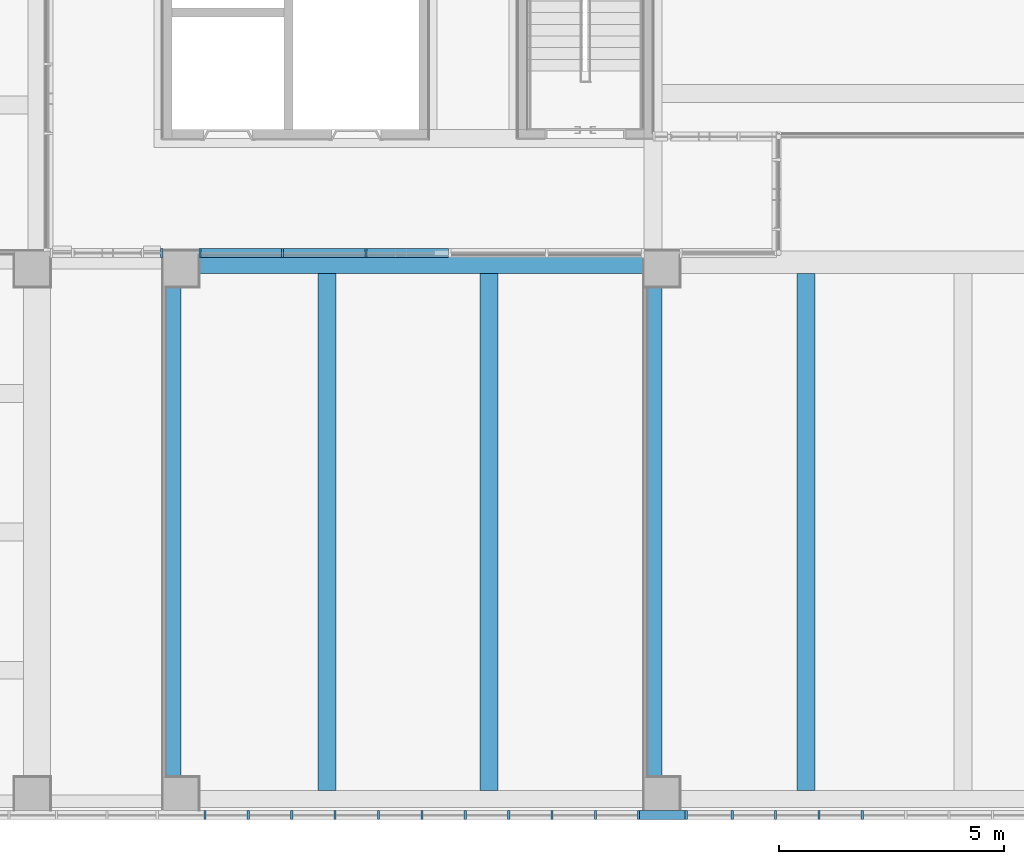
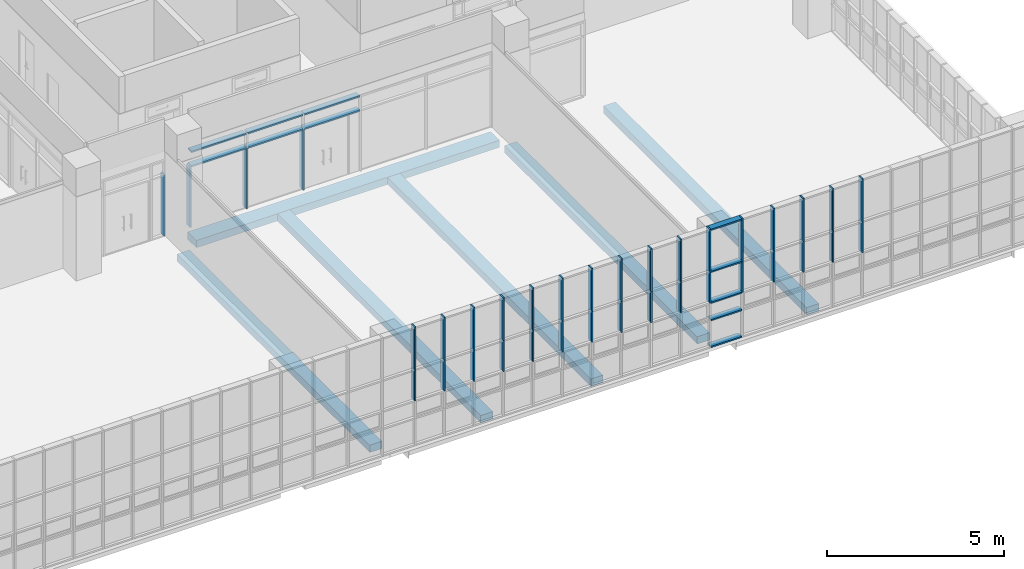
# One storey, part 4 of 76: 47 members, 6 beams, 3 elements without a shape of their own.
"""IFC2X3 building model written with IfcOpenShell, lengths in millimetres."""

from ifc_helpers import new_model, entity, si_unit, converted_unit, derived_unit, direction, frame, frame_2d, origin, origin_2d_with_axis, place, context, subcontext, project, spatial, rectangle, extrude, source, transform, mapped, material, type_object, type_shapes, element, aggregate, save


model = new_model("IFC2X3")

# Units and contexts
model_context = context("Model", 3, precision=0.01, world=origin(), true_north=direction((6.123031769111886e-17, 1.0)))
body_context = subcontext(model_context, "Body", "Model", "MODEL_VIEW")
ifc_project = project(units=[si_unit("LENGTHUNIT", "METRE", prefix="MILLI"), si_unit("AREAUNIT", "SQUARE_METRE"), si_unit("VOLUMEUNIT", "CUBIC_METRE"), converted_unit("PLANEANGLEUNIT", "DEGREE", entity("IfcRatioMeasure", 0.017453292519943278), si_unit("PLANEANGLEUNIT", "RADIAN"), dimensions=[0, 0, 0, 0, 0, 0, 0]), si_unit("MASSUNIT", "GRAM", prefix="KILO"), derived_unit("MASSDENSITYUNIT", [(si_unit("MASSUNIT", "GRAM", prefix="KILO"), 1), (si_unit("LENGTHUNIT", "METRE"), -3)]), derived_unit("MOMENTOFINERTIAUNIT", [(si_unit("LENGTHUNIT", "METRE"), 4)]), si_unit("TIMEUNIT", "SECOND"), si_unit("FREQUENCYUNIT", "HERTZ"), si_unit("THERMODYNAMICTEMPERATUREUNIT", "DEGREE_CELSIUS"), derived_unit("THERMALTRANSMITTANCEUNIT", [(si_unit("MASSUNIT", "GRAM", prefix="KILO"), 1), (si_unit("THERMODYNAMICTEMPERATUREUNIT", "KELVIN"), -1), (si_unit("TIMEUNIT", "SECOND"), -3)]), derived_unit("VOLUMETRICFLOWRATEUNIT", [(si_unit("LENGTHUNIT", "METRE"), 3), (si_unit("TIMEUNIT", "SECOND"), -1)]), derived_unit("MASSFLOWRATEUNIT", [(si_unit("MASSUNIT", "GRAM", prefix="KILO"), 1), (si_unit("TIMEUNIT", "SECOND"), -1)]), derived_unit("ROTATIONALFREQUENCYUNIT", [(si_unit("TIMEUNIT", "SECOND"), -1)]), si_unit("ELECTRICCURRENTUNIT", "AMPERE"), si_unit("ELECTRICVOLTAGEUNIT", "VOLT"), si_unit("POWERUNIT", "WATT"), si_unit("FORCEUNIT", "NEWTON", prefix="KILO"), si_unit("ILLUMINANCEUNIT", "LUX"), si_unit("LUMINOUSFLUXUNIT", "LUMEN"), si_unit("LUMINOUSINTENSITYUNIT", "CANDELA"), derived_unit("USERDEFINED", [(si_unit("MASSUNIT", "GRAM", prefix="KILO"), -1), (si_unit("LENGTHUNIT", "METRE"), -2), (si_unit("TIMEUNIT", "SECOND"), 3), (si_unit("LUMINOUSFLUXUNIT", "LUMEN"), 1)]), derived_unit("SOUNDPOWERUNIT", [(si_unit("MASSUNIT", "GRAM", prefix="KILO"), 1), (si_unit("LENGTHUNIT", "METRE"), 2), (si_unit("TIMEUNIT", "SECOND"), -3)]), derived_unit("SOUNDPRESSUREUNIT", [(si_unit("MASSUNIT", "GRAM", prefix="KILO"), 1), (si_unit("LENGTHUNIT", "METRE"), -1), (si_unit("TIMEUNIT", "SECOND"), -2)]), derived_unit("LINEARVELOCITYUNIT", [(si_unit("LENGTHUNIT", "METRE"), 1), (si_unit("TIMEUNIT", "SECOND"), -1)]), si_unit("PRESSUREUNIT", "PASCAL"), derived_unit("USERDEFINED", [(si_unit("LENGTHUNIT", "METRE"), -2), (si_unit("MASSUNIT", "GRAM", prefix="KILO"), 1), (si_unit("TIMEUNIT", "SECOND"), -2)]), derived_unit("LINEARFORCEUNIT", [(si_unit("MASSUNIT", "GRAM", prefix="KILO"), 1), (si_unit("LENGTHUNIT", "METRE"), 1), (si_unit("TIMEUNIT", "SECOND"), -2), (si_unit("LENGTHUNIT", "METRE"), -1)]), derived_unit("PLANARFORCEUNIT", [(si_unit("MASSUNIT", "GRAM", prefix="KILO"), 1), (si_unit("LENGTHUNIT", "METRE"), 1), (si_unit("TIMEUNIT", "SECOND"), -2), (si_unit("LENGTHUNIT", "METRE"), -2)])], contexts=[model_context])

# Site, building, storey
site_placement = place(None, frame((-14167.972527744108, -657.2125860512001, 0.0)))
site = spatial("IfcSite", under=ifc_project, at=site_placement, Name="Default", CompositionType="ELEMENT")
building_placement = place(site_placement, origin())
building = spatial("IfcBuilding", under=site, at=building_placement, Name="Sample Building", CompositionType="ELEMENT")
storey_placement = place(building_placement, frame((0.0, 0.0, 9300.0)))
storey = spatial("IfcBuildingStorey", under=building, at=storey_placement, Name="지상 3층", CompositionType="ELEMENT", Elevation=9300.000000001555)

# Curtain wall, members
curtain_wall_type = type_object("IfcCurtainWallType", Name="커튼월:CW112-스테인리스 스틸 커튼월", PredefinedType="NOTDEFINED")
curtain_wall_1_placement = place(storey_placement, frame((0.0, 0.0, -9300.0)))
curtain_wall_1 = element("IfcCurtainWall", 1, at=curtain_wall_1_placement, inside=storey, type_object=curtain_wall_type, Name="커튼월:CW112-스테인리스 스틸 커튼월", ObjectType="커튼월:CW112-스테인리스 스틸 커튼월")
ifc_material_1 = material(Name="<Unnamed>")
member_type_1 = type_object("IfcMemberType", Name="직사각형 멀리언:CW200-직사각형 멀리언 50x200mm", PredefinedType="MULLION", material=ifc_material_1)
shared_shape_1 = source(origin(), body_context, "Body", "SweptSolid", [
    extrude(rectangle(XDim=200.0, YDim=50.0, at=origin_2d_with_axis()), frame((-25.0, 0.0, -2100.0), z_axis=(0.0, 0.0, 1.0), x_axis=(0.0, -1.0, 0.0)), (0.0, 0.0, 1.0), 2099.9999999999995),
])
type_shapes(member_type_1, [shared_shape_1])
member_1_placement = place(curtain_wall_1_placement, frame((30867.95511434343, 13012.194878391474, 11480.0), z_axis=(0.0, 0.0, 1.0), x_axis=(-1.0, 0.0, 0.0)))
member_1 = element("IfcMember", 2, at=member_1_placement, type_object=member_type_1, material=ifc_material_1, Name="직사각형 멀리언:CW200-직사각형 멀리언 50x200mm", ObjectType="직사각형 멀리언:CW200-직사각형 멀리언 50x200mm", context=body_context, shape_type="MappedRepresentation", body=[
    mapped(shared_shape_1, transform((0.0, 0.0, 0.0), scale=1.0)),
])
member_type_2 = type_object("IfcMemberType", Name="직사각형 멀리언:CW200-직사각형 멀리언 50x200mm", PredefinedType="MULLION", material=ifc_material_1)
shared_shape_2 = source(origin(), body_context, "Body", "SweptSolid", [
    extrude(rectangle(XDim=200.0, YDim=50.0, at=origin_2d_with_axis()), frame((0.0, 0.0, -2100.0), z_axis=(0.0, 0.0, 1.0), x_axis=(0.0, -1.0, 0.0)), (0.0, 0.0, 1.0), 2100.0),
])
type_shapes(member_type_2, [shared_shape_2])
member_2_placement = place(curtain_wall_1_placement, frame((32727.97249113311, 13012.19487839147, 9380.0), z_axis=(0.0, 0.0, -1.0), x_axis=(1.0, 0.0, 0.0)))
member_2 = element("IfcMember", 3, at=member_2_placement, type_object=member_type_2, material=ifc_material_1, Name="직사각형 멀리언:CW200-직사각형 멀리언 50x200mm", ObjectType="직사각형 멀리언:CW200-직사각형 멀리언 50x200mm", context=body_context, shape_type="MappedRepresentation", body=[
    mapped(shared_shape_2, transform((0.0, 0.0, 0.0), scale=1.0)),
])
member_3_placement = place(curtain_wall_1_placement, frame((34587.972491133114, 13012.194878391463, 9380.0), z_axis=(0.0, 0.0, -1.0), x_axis=(1.0, 0.0, 0.0)))
member_3 = element("IfcMember", 4, at=member_3_placement, type_object=member_type_2, material=ifc_material_1, Name="직사각형 멀리언:CW200-직사각형 멀리언 50x200mm", ObjectType="직사각형 멀리언:CW200-직사각형 멀리언 50x200mm", context=body_context, shape_type="MappedRepresentation", body=[
    mapped(shared_shape_2, transform((0.0, 0.0, 0.0), scale=1.0)),
])
member_type_3 = type_object("IfcMemberType", Name="직사각형 멀리언:CW200-직사각형 멀리언 50x200mm", PredefinedType="MULLION", material=ifc_material_1)
shared_shape_3 = source(origin(), body_context, "Body", "SweptSolid", [
    extrude(rectangle(XDim=200.0, YDim=50.0, at=origin_2d_with_axis()), frame((0.0, 0.0, -1785.0), z_axis=(0.0, 0.0, 1.0), x_axis=(0.0, -1.0, 0.0)), (0.0, 0.0, 1.0), 1785.0000000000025),
])
type_shapes(member_type_3, [shared_shape_3])
member_4_placement = place(curtain_wall_1_placement, frame((32702.972491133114, 13012.19487839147, 11480.0), z_axis=(1.0, 0.0, 0.0), x_axis=(0.0, 0.0, 1.0)))
member_4 = element("IfcMember", 5, at=member_4_placement, type_object=member_type_3, material=ifc_material_1, Name="직사각형 멀리언:CW200-직사각형 멀리언 50x200mm", ObjectType="직사각형 멀리언:CW200-직사각형 멀리언 50x200mm", context=body_context, shape_type="MappedRepresentation", body=[
    mapped(shared_shape_3, transform((0.0, 0.0, 0.0), scale=1.0)),
])
member_type_4 = type_object("IfcMemberType", Name="직사각형 멀리언:CW200-직사각형 멀리언 50x200mm", PredefinedType="MULLION", material=ifc_material_1)
shared_shape_4 = source(origin(), body_context, "Body", "SweptSolid", [
    extrude(rectangle(XDim=200.0, YDim=50.0, at=origin_2d_with_axis()), frame((-25.0, 0.0, -1785.0), z_axis=(0.0, 0.0, 1.0), x_axis=(0.0, -1.0, 0.0)), (0.0, 0.0, 1.0), 1785.0000000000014),
])
type_shapes(member_type_4, [shared_shape_4])
member_5_placement = place(curtain_wall_1_placement, frame((32702.972491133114, 13012.19487839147, 12000.0), z_axis=(1.0, 0.0, 0.0), x_axis=(0.0, 0.0, 1.0)))
member_5 = element("IfcMember", 6, at=member_5_placement, type_object=member_type_4, material=ifc_material_1, Name="직사각형 멀리언:CW200-직사각형 멀리언 50x200mm", ObjectType="직사각형 멀리언:CW200-직사각형 멀리언 50x200mm", context=body_context, shape_type="MappedRepresentation", body=[
    mapped(shared_shape_4, transform((0.0, 0.0, 0.0), scale=1.0)),
])
member_type_5 = type_object("IfcMemberType", Name="직사각형 멀리언:CW200-직사각형 멀리언 50x200mm", PredefinedType="MULLION", material=ifc_material_1)
shared_shape_5 = source(origin(), body_context, "Body", "SweptSolid", [
    extrude(rectangle(XDim=200.0, YDim=50.0, at=origin_2d_with_axis()), frame((0.0, 0.0, -1810.0), z_axis=(0.0, 0.0, 1.0), x_axis=(0.0, -1.0, 0.0)), (0.0, 0.0, 1.0), 1809.999999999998),
])
type_shapes(member_type_5, [shared_shape_5])
member_6_placement = place(curtain_wall_1_placement, frame((34562.972491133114, 13012.194878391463, 11480.0), z_axis=(1.0, 0.0, 0.0), x_axis=(0.0, 0.0, 1.0)))
member_6 = element("IfcMember", 7, at=member_6_placement, type_object=member_type_5, material=ifc_material_1, Name="직사각형 멀리언:CW200-직사각형 멀리언 50x200mm", ObjectType="직사각형 멀리언:CW200-직사각형 멀리언 50x200mm", context=body_context, shape_type="MappedRepresentation", body=[
    mapped(shared_shape_5, transform((0.0, 0.0, 0.0), scale=1.0)),
])
member_7_placement = place(curtain_wall_1_placement, frame((36422.972491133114, 13012.194878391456, 11480.0), z_axis=(1.0, 0.0, 0.0), x_axis=(0.0, 0.0, 1.0)))
member_7 = element("IfcMember", 8, at=member_7_placement, type_object=member_type_5, material=ifc_material_1, Name="직사각형 멀리언:CW200-직사각형 멀리언 50x200mm", ObjectType="직사각형 멀리언:CW200-직사각형 멀리언 50x200mm", context=body_context, shape_type="MappedRepresentation", body=[
    mapped(shared_shape_5, transform((0.0, 0.0, 0.0), scale=1.0)),
])
member_type_6 = type_object("IfcMemberType", Name="직사각형 멀리언:CW200-직사각형 멀리언 50x200mm", PredefinedType="MULLION", material=ifc_material_1)
shared_shape_6 = source(origin(), body_context, "Body", "SweptSolid", [
    extrude(rectangle(XDim=200.0, YDim=50.0, at=origin_2d_with_axis()), frame((-25.0, 0.0, -1810.0), z_axis=(0.0, 0.0, 1.0), x_axis=(0.0, -1.0, 0.0)), (0.0, 0.0, 1.0), 1809.999999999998),
])
type_shapes(member_type_6, [shared_shape_6])
member_8_placement = place(curtain_wall_1_placement, frame((34562.972491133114, 13012.194878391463, 12000.0), z_axis=(1.0, 0.0, 0.0), x_axis=(0.0, 0.0, 1.0)))
member_8 = element("IfcMember", 9, at=member_8_placement, type_object=member_type_6, material=ifc_material_1, Name="직사각형 멀리언:CW200-직사각형 멀리언 50x200mm", ObjectType="직사각형 멀리언:CW200-직사각형 멀리언 50x200mm", context=body_context, shape_type="MappedRepresentation", body=[
    mapped(shared_shape_6, transform((0.0, 0.0, 0.0), scale=1.0)),
])
member_9_placement = place(curtain_wall_1_placement, frame((36422.972491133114, 13012.194878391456, 12000.0), z_axis=(1.0, 0.0, 0.0), x_axis=(0.0, 0.0, 1.0)))
member_9 = element("IfcMember", 10, at=member_9_placement, type_object=member_type_6, material=ifc_material_1, Name="직사각형 멀리언:CW200-직사각형 멀리언 50x200mm", ObjectType="직사각형 멀리언:CW200-직사각형 멀리언 50x200mm", context=body_context, shape_type="MappedRepresentation", body=[
    mapped(shared_shape_6, transform((0.0, 0.0, 0.0), scale=1.0)),
])
aggregate(curtain_wall_1, [member_1, member_4, member_5, member_6, member_2, member_8, member_7, member_3, member_9])

# Curtain wall, member
curtain_wall_2_placement = place(storey_placement, frame((0.0, 0.0, -9300.0)))
curtain_wall_2 = element("IfcCurtainWall", 11, at=curtain_wall_2_placement, inside=storey, type_object=curtain_wall_type, Name="커튼월:CW112-스테인리스 스틸 커튼월", ObjectType="커튼월:CW112-스테인리스 스틸 커튼월")
member_type_7 = type_object("IfcMemberType", Name="직사각형 멀리언:CW200-직사각형 멀리언 50x200mm", PredefinedType="MULLION", material=ifc_material_1)
shared_shape_7 = source(origin(), body_context, "Body", "SweptSolid", [
    extrude(rectangle(XDim=200.0, YDim=50.0, at=origin_2d_with_axis()), frame((-25.0, 0.0, -2100.0), z_axis=(0.0, 0.0, 1.0), x_axis=(0.0, -1.0, 0.0)), (0.0, 0.0, 1.0), 2099.999999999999),
])
type_shapes(member_type_7, [shared_shape_7])
member_10_placement = place(curtain_wall_2_placement, frame((30067.972463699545, 13012.212307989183, 11480.0)))
member_10 = element("IfcMember", 12, at=member_10_placement, type_object=member_type_7, material=ifc_material_1, Name="직사각형 멀리언:CW200-직사각형 멀리언 50x200mm", ObjectType="직사각형 멀리언:CW200-직사각형 멀리언 50x200mm", context=body_context, shape_type="MappedRepresentation", body=[
    mapped(shared_shape_7, transform((0.0, 0.0, 0.0), scale=1.0)),
])
aggregate(curtain_wall_2, [member_10])

# Curtain wall, members
curtain_wall_3_placement = place(storey_placement, frame((0.0, 0.0, -9300.0)))
curtain_wall_3 = element("IfcCurtainWall", 13, at=curtain_wall_3_placement, inside=storey, type_object=curtain_wall_type, Name="커튼월:CW112-스테인리스 스틸 커튼월", ObjectType="커튼월:CW112-스테인리스 스틸 커튼월")
member_type_8 = type_object("IfcMemberType", Name="직사각형 멀리언:CW200-직사각형 멀리언 50x200mm", PredefinedType="MULLION", material=ifc_material_1)
shared_shape_8 = source(origin(), body_context, "Body", "SweptSolid", [
    extrude(rectangle(XDim=200.0, YDim=50.0, at=origin_2d_with_axis()), frame((0.0, 0.0, -1070.0), z_axis=(0.0, 0.0, 1.0), x_axis=(0.0, -1.0, 0.0)), (0.0, 0.0, 1.0), 1070.000000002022),
])
type_shapes(member_type_8, [shared_shape_8])
member_11_placement = place(curtain_wall_3_placement, frame((31005.156070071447, 507.2122951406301, 10930.0), z_axis=(0.0, 0.0, -1.0), x_axis=(1.0, 0.0, 0.0)))
member_11 = element("IfcMember", 14, at=member_11_placement, type_object=member_type_8, material=ifc_material_1, Name="직사각형 멀리언:CW200-직사각형 멀리언 50x200mm", ObjectType="직사각형 멀리언:CW200-직사각형 멀리언 50x200mm", context=body_context, shape_type="MappedRepresentation", body=[
    mapped(shared_shape_8, transform((0.0, 0.0, 0.0), scale=1.0)),
])
member_12_placement = place(curtain_wall_3_placement, frame((31970.156070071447, 507.21229514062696, 10930.0), z_axis=(0.0, 0.0, -1.0), x_axis=(1.0, 0.0, 0.0)))
member_12 = element("IfcMember", 15, at=member_12_placement, type_object=member_type_8, material=ifc_material_1, Name="직사각형 멀리언:CW200-직사각형 멀리언 50x200mm", ObjectType="직사각형 멀리언:CW200-직사각형 멀리언 50x200mm", context=body_context, shape_type="MappedRepresentation", body=[
    mapped(shared_shape_8, transform((0.0, 0.0, 0.0), scale=1.0)),
])
member_13_placement = place(curtain_wall_3_placement, frame((32935.156070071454, 507.2122951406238, 10930.0), z_axis=(0.0, 0.0, -1.0), x_axis=(1.0, 0.0, 0.0)))
member_13 = element("IfcMember", 16, at=member_13_placement, type_object=member_type_8, material=ifc_material_1, Name="직사각형 멀리언:CW200-직사각형 멀리언 50x200mm", ObjectType="직사각형 멀리언:CW200-직사각형 멀리언 50x200mm", context=body_context, shape_type="MappedRepresentation", body=[
    mapped(shared_shape_8, transform((0.0, 0.0, 0.0), scale=1.0)),
])
member_14_placement = place(curtain_wall_3_placement, frame((33900.156070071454, 507.2122951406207, 10930.0), z_axis=(0.0, 0.0, -1.0), x_axis=(1.0, 0.0, 0.0)))
member_14 = element("IfcMember", 17, at=member_14_placement, type_object=member_type_8, material=ifc_material_1, Name="직사각형 멀리언:CW200-직사각형 멀리언 50x200mm", ObjectType="직사각형 멀리언:CW200-직사각형 멀리언 50x200mm", context=body_context, shape_type="MappedRepresentation", body=[
    mapped(shared_shape_8, transform((0.0, 0.0, 0.0), scale=1.0)),
])
member_15_placement = place(curtain_wall_3_placement, frame((34865.156070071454, 507.2122951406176, 10930.0), z_axis=(0.0, 0.0, -1.0), x_axis=(1.0, 0.0, 0.0)))
member_15 = element("IfcMember", 18, at=member_15_placement, type_object=member_type_8, material=ifc_material_1, Name="직사각형 멀리언:CW200-직사각형 멀리언 50x200mm", ObjectType="직사각형 멀리언:CW200-직사각형 멀리언 50x200mm", context=body_context, shape_type="MappedRepresentation", body=[
    mapped(shared_shape_8, transform((0.0, 0.0, 0.0), scale=1.0)),
])
member_16_placement = place(curtain_wall_3_placement, frame((35830.156070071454, 507.21229514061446, 10930.0), z_axis=(0.0, 0.0, -1.0), x_axis=(1.0, 0.0, 0.0)))
member_16 = element("IfcMember", 19, at=member_16_placement, type_object=member_type_8, material=ifc_material_1, Name="직사각형 멀리언:CW200-직사각형 멀리언 50x200mm", ObjectType="직사각형 멀리언:CW200-직사각형 멀리언 50x200mm", context=body_context, shape_type="MappedRepresentation", body=[
    mapped(shared_shape_8, transform((0.0, 0.0, 0.0), scale=1.0)),
])
member_17_placement = place(curtain_wall_3_placement, frame((36795.156070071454, 507.21229514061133, 10930.0), z_axis=(0.0, 0.0, -1.0), x_axis=(1.0, 0.0, 0.0)))
member_17 = element("IfcMember", 20, at=member_17_placement, type_object=member_type_8, material=ifc_material_1, Name="직사각형 멀리언:CW200-직사각형 멀리언 50x200mm", ObjectType="직사각형 멀리언:CW200-직사각형 멀리언 50x200mm", context=body_context, shape_type="MappedRepresentation", body=[
    mapped(shared_shape_8, transform((0.0, 0.0, 0.0), scale=1.0)),
])
member_18_placement = place(curtain_wall_3_placement, frame((37760.15607007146, 507.21229514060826, 10930.0), z_axis=(0.0, 0.0, -1.0), x_axis=(1.0, 0.0, 0.0)))
member_18 = element("IfcMember", 21, at=member_18_placement, type_object=member_type_8, material=ifc_material_1, Name="직사각형 멀리언:CW200-직사각형 멀리언 50x200mm", ObjectType="직사각형 멀리언:CW200-직사각형 멀리언 50x200mm", context=body_context, shape_type="MappedRepresentation", body=[
    mapped(shared_shape_8, transform((0.0, 0.0, 0.0), scale=1.0)),
])
member_19_placement = place(curtain_wall_3_placement, frame((38725.156070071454, 507.21229514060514, 10930.0), z_axis=(0.0, 0.0, -1.0), x_axis=(1.0, 0.0, 0.0)))
member_19 = element("IfcMember", 22, at=member_19_placement, type_object=member_type_8, material=ifc_material_1, Name="직사각형 멀리언:CW200-직사각형 멀리언 50x200mm", ObjectType="직사각형 멀리언:CW200-직사각형 멀리언 50x200mm", context=body_context, shape_type="MappedRepresentation", body=[
    mapped(shared_shape_8, transform((0.0, 0.0, 0.0), scale=1.0)),
])
member_20_placement = place(curtain_wall_3_placement, frame((39690.15607007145, 507.212295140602, 10930.0), z_axis=(0.0, 0.0, -1.0), x_axis=(1.0, 0.0, 0.0)))
member_20 = element("IfcMember", 23, at=member_20_placement, type_object=member_type_8, material=ifc_material_1, Name="직사각형 멀리언:CW200-직사각형 멀리언 50x200mm", ObjectType="직사각형 멀리언:CW200-직사각형 멀리언 50x200mm", context=body_context, shape_type="MappedRepresentation", body=[
    mapped(shared_shape_8, transform((0.0, 0.0, 0.0), scale=1.0)),
])
member_21_placement = place(curtain_wall_3_placement, frame((41710.15607007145, 507.21229514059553, 10930.0), z_axis=(0.0, 0.0, -1.0), x_axis=(1.0, 0.0, 0.0)))
member_21 = element("IfcMember", 24, at=member_21_placement, type_object=member_type_8, material=ifc_material_1, Name="직사각형 멀리언:CW200-직사각형 멀리언 50x200mm", ObjectType="직사각형 멀리언:CW200-직사각형 멀리언 50x200mm", context=body_context, shape_type="MappedRepresentation", body=[
    mapped(shared_shape_8, transform((0.0, 0.0, 0.0), scale=1.0)),
])
member_22_placement = place(curtain_wall_3_placement, frame((42730.156070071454, 507.2122951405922, 10930.0), z_axis=(0.0, 0.0, -1.0), x_axis=(1.0, 0.0, 0.0)))
member_22 = element("IfcMember", 25, at=member_22_placement, type_object=member_type_8, material=ifc_material_1, Name="직사각형 멀리언:CW200-직사각형 멀리언 50x200mm", ObjectType="직사각형 멀리언:CW200-직사각형 멀리언 50x200mm", context=body_context, shape_type="MappedRepresentation", body=[
    mapped(shared_shape_8, transform((0.0, 0.0, 0.0), scale=1.0)),
])
member_23_placement = place(curtain_wall_3_placement, frame((43695.156070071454, 507.2122951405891, 10930.0), z_axis=(0.0, 0.0, -1.0), x_axis=(1.0, 0.0, 0.0)))
member_23 = element("IfcMember", 26, at=member_23_placement, type_object=member_type_8, material=ifc_material_1, Name="직사각형 멀리언:CW200-직사각형 멀리언 50x200mm", ObjectType="직사각형 멀리언:CW200-직사각형 멀리언 50x200mm", context=body_context, shape_type="MappedRepresentation", body=[
    mapped(shared_shape_8, transform((0.0, 0.0, 0.0), scale=1.0)),
])
member_24_placement = place(curtain_wall_3_placement, frame((44660.15607007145, 507.212295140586, 10930.0), z_axis=(0.0, 0.0, -1.0), x_axis=(1.0, 0.0, 0.0)))
member_24 = element("IfcMember", 27, at=member_24_placement, type_object=member_type_8, material=ifc_material_1, Name="직사각형 멀리언:CW200-직사각형 멀리언 50x200mm", ObjectType="직사각형 멀리언:CW200-직사각형 멀리언 50x200mm", context=body_context, shape_type="MappedRepresentation", body=[
    mapped(shared_shape_8, transform((0.0, 0.0, 0.0), scale=1.0)),
])
member_25_placement = place(curtain_wall_3_placement, frame((45625.15607007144, 507.21229514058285, 10930.0), z_axis=(0.0, 0.0, -1.0), x_axis=(1.0, 0.0, 0.0)))
member_25 = element("IfcMember", 28, at=member_25_placement, type_object=member_type_8, material=ifc_material_1, Name="직사각형 멀리언:CW200-직사각형 멀리언 50x200mm", ObjectType="직사각형 멀리언:CW200-직사각형 멀리언 50x200mm", context=body_context, shape_type="MappedRepresentation", body=[
    mapped(shared_shape_8, transform((0.0, 0.0, 0.0), scale=1.0)),
])
member_26_placement = place(curtain_wall_3_placement, frame((40650.15607007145, 507.2122951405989, 10930.0), z_axis=(0.0, 0.0, -1.0), x_axis=(1.0, 0.0, 0.0)))
member_26 = element("IfcMember", 29, at=member_26_placement, type_object=member_type_8, material=ifc_material_1, Name="직사각형 멀리언:CW200-직사각형 멀리언 50x200mm", ObjectType="직사각형 멀리언:CW200-직사각형 멀리언 50x200mm", context=body_context, shape_type="MappedRepresentation", body=[
    mapped(shared_shape_8, transform((0.0, 0.0, 0.0), scale=1.0)),
])
member_type_9 = type_object("IfcMemberType", Name="직사각형 멀리언:CW200-직사각형 멀리언 50x200mm", PredefinedType="MULLION", material=ifc_material_1)
shared_shape_9 = source(origin(), body_context, "Body", "SweptSolid", [
    extrude(rectangle(XDim=200.0, YDim=50.0, at=origin_2d_with_axis()), frame((0.0, 0.0, -1480.0), z_axis=(0.0, 0.0, 1.0), x_axis=(0.0, -1.0, 0.0)), (0.0, 0.0, 1.0), 1479.9999999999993),
])
type_shapes(member_type_9, [shared_shape_9])
member_27_placement = place(curtain_wall_3_placement, frame((31005.156070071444, 507.2122951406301, 12000.0), z_axis=(0.0, 0.0, -1.0), x_axis=(1.0, 0.0, 0.0)))
member_27 = element("IfcMember", 30, at=member_27_placement, type_object=member_type_9, material=ifc_material_1, Name="직사각형 멀리언:CW200-직사각형 멀리언 50x200mm", ObjectType="직사각형 멀리언:CW200-직사각형 멀리언 50x200mm", context=body_context, shape_type="MappedRepresentation", body=[
    mapped(shared_shape_9, transform((0.0, 0.0, 0.0), scale=1.0)),
])
member_28_placement = place(curtain_wall_3_placement, frame((31970.156070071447, 507.21229514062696, 12000.0), z_axis=(0.0, 0.0, -1.0), x_axis=(1.0, 0.0, 0.0)))
member_28 = element("IfcMember", 31, at=member_28_placement, type_object=member_type_9, material=ifc_material_1, Name="직사각형 멀리언:CW200-직사각형 멀리언 50x200mm", ObjectType="직사각형 멀리언:CW200-직사각형 멀리언 50x200mm", context=body_context, shape_type="MappedRepresentation", body=[
    mapped(shared_shape_9, transform((0.0, 0.0, 0.0), scale=1.0)),
])
member_29_placement = place(curtain_wall_3_placement, frame((32935.156070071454, 507.2122951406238, 12000.0), z_axis=(0.0, 0.0, -1.0), x_axis=(1.0, 0.0, 0.0)))
member_29 = element("IfcMember", 32, at=member_29_placement, type_object=member_type_9, material=ifc_material_1, Name="직사각형 멀리언:CW200-직사각형 멀리언 50x200mm", ObjectType="직사각형 멀리언:CW200-직사각형 멀리언 50x200mm", context=body_context, shape_type="MappedRepresentation", body=[
    mapped(shared_shape_9, transform((0.0, 0.0, 0.0), scale=1.0)),
])
member_30_placement = place(curtain_wall_3_placement, frame((33900.156070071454, 507.2122951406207, 12000.0), z_axis=(0.0, 0.0, -1.0), x_axis=(1.0, 0.0, 0.0)))
member_30 = element("IfcMember", 33, at=member_30_placement, type_object=member_type_9, material=ifc_material_1, Name="직사각형 멀리언:CW200-직사각형 멀리언 50x200mm", ObjectType="직사각형 멀리언:CW200-직사각형 멀리언 50x200mm", context=body_context, shape_type="MappedRepresentation", body=[
    mapped(shared_shape_9, transform((0.0, 0.0, 0.0), scale=1.0)),
])
member_31_placement = place(curtain_wall_3_placement, frame((34865.156070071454, 507.2122951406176, 12000.0), z_axis=(0.0, 0.0, -1.0), x_axis=(1.0, 0.0, 0.0)))
member_31 = element("IfcMember", 34, at=member_31_placement, type_object=member_type_9, material=ifc_material_1, Name="직사각형 멀리언:CW200-직사각형 멀리언 50x200mm", ObjectType="직사각형 멀리언:CW200-직사각형 멀리언 50x200mm", context=body_context, shape_type="MappedRepresentation", body=[
    mapped(shared_shape_9, transform((0.0, 0.0, 0.0), scale=1.0)),
])
member_32_placement = place(curtain_wall_3_placement, frame((35830.156070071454, 507.21229514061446, 12000.0), z_axis=(0.0, 0.0, -1.0), x_axis=(1.0, 0.0, 0.0)))
member_32 = element("IfcMember", 35, at=member_32_placement, type_object=member_type_9, material=ifc_material_1, Name="직사각형 멀리언:CW200-직사각형 멀리언 50x200mm", ObjectType="직사각형 멀리언:CW200-직사각형 멀리언 50x200mm", context=body_context, shape_type="MappedRepresentation", body=[
    mapped(shared_shape_9, transform((0.0, 0.0, 0.0), scale=1.0)),
])
member_33_placement = place(curtain_wall_3_placement, frame((36795.156070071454, 507.21229514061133, 12000.0), z_axis=(0.0, 0.0, -1.0), x_axis=(1.0, 0.0, 0.0)))
member_33 = element("IfcMember", 36, at=member_33_placement, type_object=member_type_9, material=ifc_material_1, Name="직사각형 멀리언:CW200-직사각형 멀리언 50x200mm", ObjectType="직사각형 멀리언:CW200-직사각형 멀리언 50x200mm", context=body_context, shape_type="MappedRepresentation", body=[
    mapped(shared_shape_9, transform((0.0, 0.0, 0.0), scale=1.0)),
])
member_34_placement = place(curtain_wall_3_placement, frame((37760.15607007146, 507.21229514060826, 12000.0), z_axis=(0.0, 0.0, -1.0), x_axis=(1.0, 0.0, 0.0)))
member_34 = element("IfcMember", 37, at=member_34_placement, type_object=member_type_9, material=ifc_material_1, Name="직사각형 멀리언:CW200-직사각형 멀리언 50x200mm", ObjectType="직사각형 멀리언:CW200-직사각형 멀리언 50x200mm", context=body_context, shape_type="MappedRepresentation", body=[
    mapped(shared_shape_9, transform((0.0, 0.0, 0.0), scale=1.0)),
])
member_35_placement = place(curtain_wall_3_placement, frame((38725.156070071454, 507.21229514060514, 12000.0), z_axis=(0.0, 0.0, -1.0), x_axis=(1.0, 0.0, 0.0)))
member_35 = element("IfcMember", 38, at=member_35_placement, type_object=member_type_9, material=ifc_material_1, Name="직사각형 멀리언:CW200-직사각형 멀리언 50x200mm", ObjectType="직사각형 멀리언:CW200-직사각형 멀리언 50x200mm", context=body_context, shape_type="MappedRepresentation", body=[
    mapped(shared_shape_9, transform((0.0, 0.0, 0.0), scale=1.0)),
])
member_36_placement = place(curtain_wall_3_placement, frame((39690.15607007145, 507.212295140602, 12000.0), z_axis=(0.0, 0.0, -1.0), x_axis=(1.0, 0.0, 0.0)))
member_36 = element("IfcMember", 39, at=member_36_placement, type_object=member_type_9, material=ifc_material_1, Name="직사각형 멀리언:CW200-직사각형 멀리언 50x200mm", ObjectType="직사각형 멀리언:CW200-직사각형 멀리언 50x200mm", context=body_context, shape_type="MappedRepresentation", body=[
    mapped(shared_shape_9, transform((0.0, 0.0, 0.0), scale=1.0)),
])
member_37_placement = place(curtain_wall_3_placement, frame((41710.15607007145, 507.21229514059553, 12000.0), z_axis=(0.0, 0.0, -1.0), x_axis=(1.0, 0.0, 0.0)))
member_37 = element("IfcMember", 40, at=member_37_placement, type_object=member_type_9, material=ifc_material_1, Name="직사각형 멀리언:CW200-직사각형 멀리언 50x200mm", ObjectType="직사각형 멀리언:CW200-직사각형 멀리언 50x200mm", context=body_context, shape_type="MappedRepresentation", body=[
    mapped(shared_shape_9, transform((0.0, 0.0, 0.0), scale=1.0)),
])
member_38_placement = place(curtain_wall_3_placement, frame((42730.156070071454, 507.2122951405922, 12000.0), z_axis=(0.0, 0.0, -1.0), x_axis=(1.0, 0.0, 0.0)))
member_38 = element("IfcMember", 41, at=member_38_placement, type_object=member_type_9, material=ifc_material_1, Name="직사각형 멀리언:CW200-직사각형 멀리언 50x200mm", ObjectType="직사각형 멀리언:CW200-직사각형 멀리언 50x200mm", context=body_context, shape_type="MappedRepresentation", body=[
    mapped(shared_shape_9, transform((0.0, 0.0, 0.0), scale=1.0)),
])
member_39_placement = place(curtain_wall_3_placement, frame((43695.156070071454, 507.2122951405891, 12000.0), z_axis=(0.0, 0.0, -1.0), x_axis=(1.0, 0.0, 0.0)))
member_39 = element("IfcMember", 42, at=member_39_placement, type_object=member_type_9, material=ifc_material_1, Name="직사각형 멀리언:CW200-직사각형 멀리언 50x200mm", ObjectType="직사각형 멀리언:CW200-직사각형 멀리언 50x200mm", context=body_context, shape_type="MappedRepresentation", body=[
    mapped(shared_shape_9, transform((0.0, 0.0, 0.0), scale=1.0)),
])
member_40_placement = place(curtain_wall_3_placement, frame((44660.15607007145, 507.212295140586, 12000.0), z_axis=(0.0, 0.0, -1.0), x_axis=(1.0, 0.0, 0.0)))
member_40 = element("IfcMember", 43, at=member_40_placement, type_object=member_type_9, material=ifc_material_1, Name="직사각형 멀리언:CW200-직사각형 멀리언 50x200mm", ObjectType="직사각형 멀리언:CW200-직사각형 멀리언 50x200mm", context=body_context, shape_type="MappedRepresentation", body=[
    mapped(shared_shape_9, transform((0.0, 0.0, 0.0), scale=1.0)),
])
member_41_placement = place(curtain_wall_3_placement, frame((45625.15607007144, 507.21229514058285, 12000.0), z_axis=(0.0, 0.0, -1.0), x_axis=(1.0, 0.0, 0.0)))
member_41 = element("IfcMember", 44, at=member_41_placement, type_object=member_type_9, material=ifc_material_1, Name="직사각형 멀리언:CW200-직사각형 멀리언 50x200mm", ObjectType="직사각형 멀리언:CW200-직사각형 멀리언 50x200mm", context=body_context, shape_type="MappedRepresentation", body=[
    mapped(shared_shape_9, transform((0.0, 0.0, 0.0), scale=1.0)),
])
member_42_placement = place(curtain_wall_3_placement, frame((40650.15607007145, 507.2122951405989, 12000.0), z_axis=(0.0, 0.0, -1.0), x_axis=(1.0, 0.0, 0.0)))
member_42 = element("IfcMember", 45, at=member_42_placement, type_object=member_type_9, material=ifc_material_1, Name="직사각형 멀리언:CW200-직사각형 멀리언 50x200mm", ObjectType="직사각형 멀리언:CW200-직사각형 멀리언 50x200mm", context=body_context, shape_type="MappedRepresentation", body=[
    mapped(shared_shape_9, transform((0.0, 0.0, 0.0), scale=1.0)),
])
member_type_10 = type_object("IfcMemberType", Name="직사각형 멀리언:CW200-직사각형 멀리언 50x200mm", PredefinedType="MULLION", material=ifc_material_1)
shared_shape_10 = source(origin(), body_context, "Body", "SweptSolid", [
    extrude(rectangle(XDim=200.0, YDim=50.0, at=origin_2d_with_axis()), frame((-25.0, 0.0, -1010.0), z_axis=(0.0, 0.0, 1.0), x_axis=(0.0, -1.0, 0.0)), (0.0, 0.0, 1.0), 1009.9999999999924),
])
type_shapes(member_type_10, [shared_shape_10])
member_43_placement = place(curtain_wall_3_placement, frame((40675.156070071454, 507.2122951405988, 9380.0), z_axis=(-1.0, 0.0, 0.0), x_axis=(0.0, 0.0, -1.0)))
member_43 = element("IfcMember", 46, at=member_43_placement, type_object=member_type_10, material=ifc_material_1, Name="직사각형 멀리언:CW200-직사각형 멀리언 50x200mm", ObjectType="직사각형 멀리언:CW200-직사각형 멀리언 50x200mm", context=body_context, shape_type="MappedRepresentation", body=[
    mapped(shared_shape_10, transform((0.0, 0.0, 0.0), scale=1.0)),
])
member_type_11 = type_object("IfcMemberType", Name="직사각형 멀리언:CW200-직사각형 멀리언 50x200mm", PredefinedType="MULLION", material=ifc_material_1)
shared_shape_11 = source(origin(), body_context, "Body", "SweptSolid", [
    extrude(rectangle(XDim=200.0, YDim=50.0, at=origin_2d_with_axis()), frame((0.0, 0.0, -1010.0), z_axis=(0.0, 0.0, 1.0), x_axis=(0.0, -1.0, 0.0)), (0.0, 0.0, 1.0), 1009.9999999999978),
])
type_shapes(member_type_11, [shared_shape_11])
member_44_placement = place(curtain_wall_3_placement, frame((41685.15607007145, 507.2122951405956, 10330.0), z_axis=(1.0, 0.0, 0.0), x_axis=(0.0, 0.0, 1.0)))
member_44 = element("IfcMember", 47, at=member_44_placement, type_object=member_type_11, material=ifc_material_1, Name="직사각형 멀리언:CW200-직사각형 멀리언 50x200mm", ObjectType="직사각형 멀리언:CW200-직사각형 멀리언 50x200mm", context=body_context, shape_type="MappedRepresentation", body=[
    mapped(shared_shape_11, transform((0.0, 0.0, 0.0), scale=1.0)),
])
member_45_placement = place(curtain_wall_3_placement, frame((41685.15607007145, 507.2122951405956, 10930.0), z_axis=(1.0, 0.0, 0.0), x_axis=(0.0, 0.0, 1.0)))
member_45 = element("IfcMember", 48, at=member_45_placement, type_object=member_type_11, material=ifc_material_1, Name="직사각형 멀리언:CW200-직사각형 멀리언 50x200mm", ObjectType="직사각형 멀리언:CW200-직사각형 멀리언 50x200mm", context=body_context, shape_type="MappedRepresentation", body=[
    mapped(shared_shape_11, transform((0.0, 0.0, 0.0), scale=1.0)),
])
member_46_placement = place(curtain_wall_3_placement, frame((41685.15607007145, 507.2122951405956, 12000.0), z_axis=(1.0, 0.0, 0.0), x_axis=(0.0, 0.0, 1.0)))
member_46 = element("IfcMember", 49, at=member_46_placement, type_object=member_type_11, material=ifc_material_1, Name="직사각형 멀리언:CW200-직사각형 멀리언 50x200mm", ObjectType="직사각형 멀리언:CW200-직사각형 멀리언 50x200mm", context=body_context, shape_type="MappedRepresentation", body=[
    mapped(shared_shape_11, transform((0.0, 0.0, 0.0), scale=1.0)),
])
member_type_12 = type_object("IfcMemberType", Name="직사각형 멀리언:CW200-직사각형 멀리언 50x200mm", PredefinedType="MULLION", material=ifc_material_1)
shared_shape_12 = source(origin(), body_context, "Body", "SweptSolid", [
    extrude(rectangle(XDim=200.0, YDim=50.0, at=origin_2d_with_axis()), frame((-25.0, 0.0, -1010.0), z_axis=(0.0, 0.0, 1.0), x_axis=(0.0, -1.0, 0.0)), (0.0, 0.0, 1.0), 1009.9999999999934),
])
type_shapes(member_type_12, [shared_shape_12])
member_47_placement = place(curtain_wall_3_placement, frame((41685.15607007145, 507.2122951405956, 13480.0), z_axis=(1.0, 0.0, 0.0), x_axis=(0.0, 0.0, 1.0)))
member_47 = element("IfcMember", 50, at=member_47_placement, type_object=member_type_12, material=ifc_material_1, Name="직사각형 멀리언:CW200-직사각형 멀리언 50x200mm", ObjectType="직사각형 멀리언:CW200-직사각형 멀리언 50x200mm", context=body_context, shape_type="MappedRepresentation", body=[
    mapped(shared_shape_12, transform((0.0, 0.0, 0.0), scale=1.0)),
])
aggregate(curtain_wall_3, [member_11, member_12, member_13, member_14, member_15, member_16, member_17, member_18, member_19, member_20, member_27, member_28, member_29, member_30, member_31, member_32, member_33, member_34, member_35, member_36, member_47, member_21, member_22, member_23, member_24, member_25, member_37, member_38, member_39, member_40, member_41, member_43, member_44, member_45, member_46, member_26, member_42])

# Beams
ifc_material_2 = material(Name="KBIMS-콘크리트")
beam_type_1 = type_object("IfcBeamType", Name="BM111-철근콘크리트구조 보:BM110-철근 콘크리트구조 보_500 x 400_2-10G9", PredefinedType="NOTDEFINED")
beam_1_placement = place(storey_placement, frame((30867.955114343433, 12807.212604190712, 0.0)))
element("IfcBeam", 51, at=beam_1_placement, inside=storey, type_object=beam_type_1, material=ifc_material_2, Name="BM111-철근콘크리트구조 보:BM110-철근 콘크리트구조 보_500 x 400_2-10G9", ObjectType="BM111-철근콘크리트구조 보:BM110-철근 콘크리트구조 보_500 x 400_2-10G9", context=body_context, shape_type="SweptSolid", body=[
    extrude(rectangle(XDim=250.00000000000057, YDim=500.0000000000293, at=frame_2d((5.400124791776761e-13, -1.949729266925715e-11), x_axis=(1.0, 0.0))), frame((0.0, 0.0, -275.0), z_axis=(1.0, 0.0, 0.0), x_axis=(0.0, 0.0, -1.0)), (0.0, 0.0, 1.0), 9900.000027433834),
])
beam_type_2 = type_object("IfcBeamType", Name="BM111-철근콘크리트구조 보:BM110-철근 콘크리트구조 보_400 x 400_2-10G6", PredefinedType="NOTDEFINED")
beam_2_placement = place(storey_placement, frame((30267.94644879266, 12607.212617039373, 0.0), z_axis=(0.0, 0.0, 1.0), x_axis=(0.0, -1.0, 0.0)))
element("IfcBeam", 52, at=beam_2_placement, inside=storey, type_object=beam_type_2, material=ifc_material_2, Name="BM111-철근콘크리트구조 보:BM110-철근 콘크리트구조 보_400 x 400_2-10G6", ObjectType="BM111-철근콘크리트구조 보:BM110-철근 콘크리트구조 보_400 x 400_2-10G6", context=body_context, shape_type="SweptSolid", body=[
    extrude(rectangle(XDim=250.00000000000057, YDim=400.0000000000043, at=frame_2d((5.400124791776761e-13, -4.334310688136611e-12), x_axis=(1.0, 0.0))), frame((350.0, 0.0, -275.0), z_axis=(1.0, 0.0, 0.0), x_axis=(0.0, 0.0, -1.0)), (0.0, 0.0, 1.0), 10900.000421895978),
])
beam_3_placement = place(storey_placement, frame((40967.94644879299, 12607.212617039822, 0.0), z_axis=(0.0, 0.0, 1.0), x_axis=(0.0, -1.0, 0.0)))
element("IfcBeam", 53, at=beam_3_placement, inside=storey, type_object=beam_type_2, material=ifc_material_2, Name="BM111-철근콘크리트구조 보:BM110-철근 콘크리트구조 보_400 x 400_2-10G6", ObjectType="BM111-철근콘크리트구조 보:BM110-철근 콘크리트구조 보_400 x 400_2-10G6", context=body_context, shape_type="SweptSolid", body=[
    extrude(rectangle(XDim=250.00000000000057, YDim=400.0000000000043, at=frame_2d((5.400124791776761e-13, 4.334310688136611e-12), x_axis=(1.0, 0.0))), frame((350.0, 0.0, -275.0), z_axis=(1.0, 0.0, 0.0), x_axis=(0.0, 0.0, -1.0)), (0.0, 0.0, 1.0), 10900.000421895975),
])
beam_type_3 = type_object("IfcBeamType", Name="BM111-철근콘크리트구조 보:BM110-철근 콘크리트구조 보_400 x 400_2-10B2", PredefinedType="NOTDEFINED")
beam_4_placement = place(storey_placement, frame((33717.963877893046, 12807.212604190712, 0.0), z_axis=(0.0, 0.0, 1.0), x_axis=(0.0, -1.0, 0.0)))
element("IfcBeam", 54, at=beam_4_placement, inside=storey, type_object=beam_type_3, material=ifc_material_2, Name="BM111-철근콘크리트구조 보:BM110-철근 콘크리트구조 보_400 x 400_2-10B2", ObjectType="BM111-철근콘크리트구조 보:BM110-철근 콘크리트구조 보_400 x 400_2-10B2", context=body_context, shape_type="SweptSolid", body=[
    extrude(rectangle(XDim=250.00000000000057, YDim=400.0000000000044, at=frame_2d((5.400124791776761e-13, 0.0), x_axis=(1.0, 0.0))), frame((250.0, 0.0, -275.0), z_axis=(1.0, 0.0, 0.0), x_axis=(0.0, 0.0, -1.0)), (0.0, 0.0, 1.0), 11500.000213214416),
])
beam_5_placement = place(storey_placement, frame((37317.963877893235, 12807.212604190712, 0.0), z_axis=(0.0, 0.0, 1.0), x_axis=(0.0, -1.0, 0.0)))
element("IfcBeam", 55, at=beam_5_placement, inside=storey, type_object=beam_type_3, material=ifc_material_2, Name="BM111-철근콘크리트구조 보:BM110-철근 콘크리트구조 보_400 x 400_2-10B2", ObjectType="BM111-철근콘크리트구조 보:BM110-철근 콘크리트구조 보_400 x 400_2-10B2", context=body_context, shape_type="SweptSolid", body=[
    extrude(rectangle(XDim=250.00000000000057, YDim=400.0000000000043, at=frame_2d((5.400124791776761e-13, -4.334310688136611e-12), x_axis=(1.0, 0.0))), frame((250.0, 0.0, -275.0), z_axis=(1.0, 0.0, 0.0), x_axis=(0.0, 0.0, -1.0)), (0.0, 0.0, 1.0), 11500.000213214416),
])
beam_6_placement = place(storey_placement, frame((44367.9464487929, 12807.212551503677, 0.0), z_axis=(0.0, 0.0, 1.0), x_axis=(0.0, -1.0, 0.0)))
element("IfcBeam", 56, at=beam_6_placement, inside=storey, type_object=beam_type_3, material=ifc_material_2, Name="BM111-철근콘크리트구조 보:BM110-철근 콘크리트구조 보_400 x 400_2-10B2", ObjectType="BM111-철근콘크리트구조 보:BM110-철근 콘크리트구조 보_400 x 400_2-10B2", context=body_context, shape_type="SweptSolid", body=[
    extrude(rectangle(XDim=250.00000000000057, YDim=400.0000000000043, at=frame_2d((5.400124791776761e-13, 4.334310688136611e-12), x_axis=(1.0, 0.0))), frame((250.0, 0.0, -275.0), z_axis=(1.0, 0.0, 0.0), x_axis=(0.0, 0.0, -1.0)), (0.0, 0.0, 1.0), 11500.0001605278),
])

save(model, "model.ifc")
